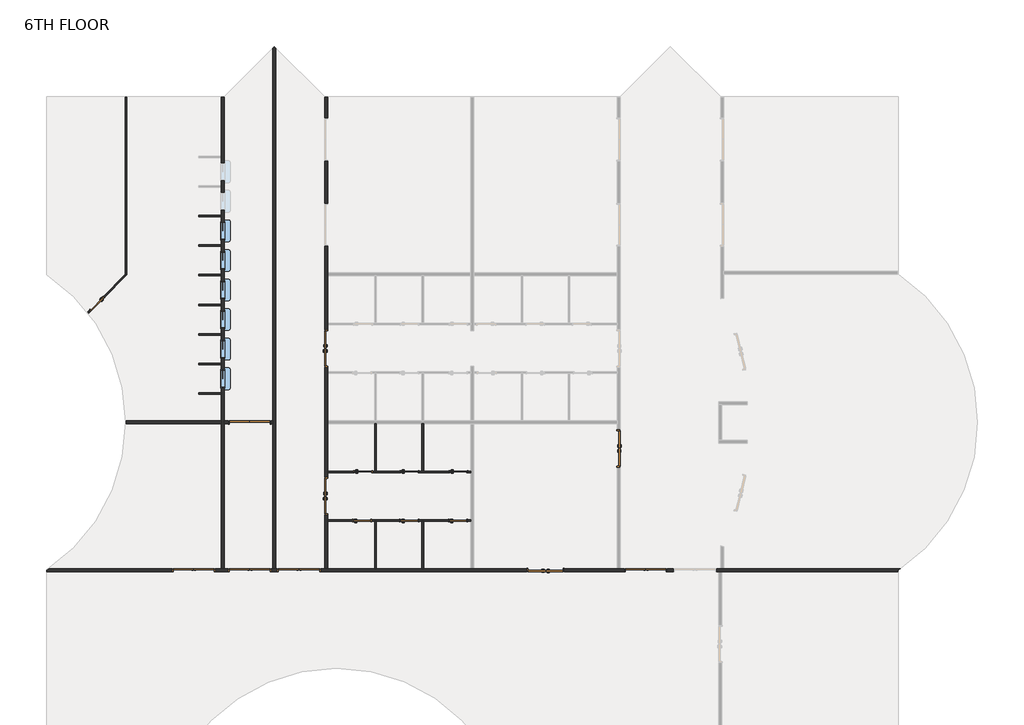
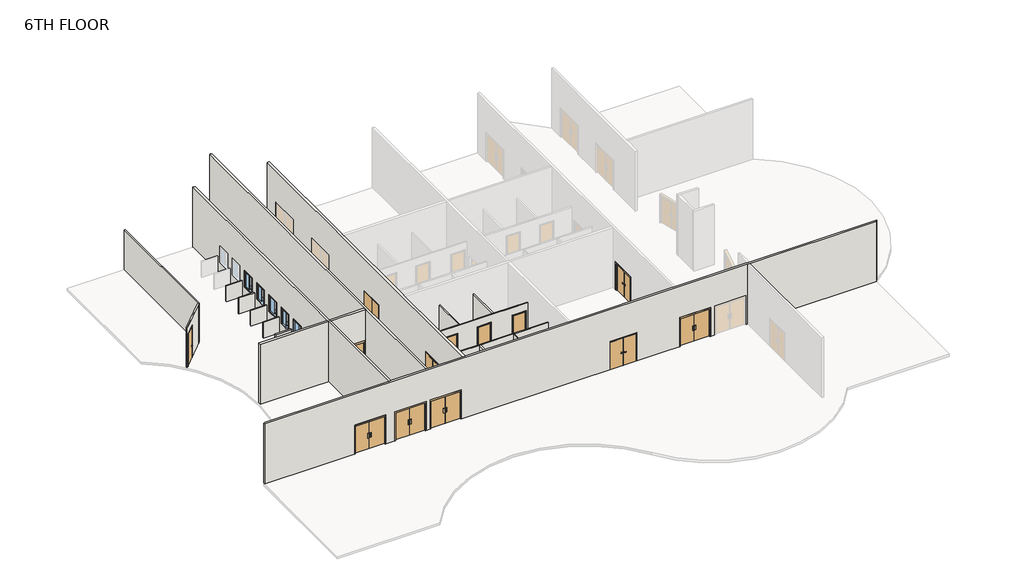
# One storey, part 1 of 2: 20 walls, 16 doors, 6 windows.
"""IFC4 building model written with IfcOpenShell, lengths in millimetres."""

from ifc_helpers import new_model, si_unit, point, frame, frame_2d, origin, place, context, project, spatial, polyline, circle_curve, trimmed, segment, composite_curve, outline, extrude, faceted_brep, transform, mapped, element, save
from ifc_brep_helpers import plane_surface, cylinder_surface, revolved_surface, advanced_brep
from components import door_2f250f70, door_0b13e4d9, door_b3a27a16, door_979b1b8c, door_f8b587be, pass_thru_4x3_19d81059

model = new_model("IFC4")

# Units and contexts
model_context = context("Model", 3, world=origin())
ifc_project = project(units=[si_unit("LENGTHUNIT", "METRE", prefix="MILLI")], contexts=[model_context])

# Site, building, storey
site = spatial("IfcSite", under=ifc_project)
building = spatial("IfcBuilding", under=site)
storey = spatial("IfcBuildingStorey", under=building, Name="6TH FLOOR", Elevation=27432.0)

# Doors
placement = place(None, origin())
door_shape = door_2f250f70(model_context)
element("IfcDoor", 1, ObjectType="Door-Passage-Double-Flush : 72\" x 82\"", at=placement, inside=storey, context=model_context, shape_type="MappedRepresentation", body=[
    mapped(door_shape, transform((14556.3400257, 13109.575, 27432.0), x_axis=(0.0, 1.0, 0.0), y_axis=(-1.0, 0.0, 0.0), z_axis=(0.0, 0.0, 1.0))),
])
element("IfcDoor", 2, ObjectType="Door-Passage-Double-Flush : 72\" x 82\"", at=placement, inside=storey, context=model_context, shape_type="MappedRepresentation", body=[
    mapped(door_shape, transform((14556.3400257, 20729.575, 27432.0), x_axis=(0.0, 1.0, 0.0), y_axis=(-1.0, 0.0, 0.0), z_axis=(0.0, 0.0, 1.0))),
])
element("IfcDoor", 3, ObjectType="Door-Passage-Double-Flush : 72\" x 82\"", at=placement, inside=storey, context=model_context, shape_type="MappedRepresentation", body=[
    mapped(door_shape, transform((25872.8337757, 9305.925, 27432.0), x_axis=(-1.0, 0.0, 0.0), y_axis=(0.0, -1.0, 0.0), z_axis=(0.0, 0.0, 1.0))),
])
element("IfcDoor", 4, ObjectType="Door-Passage-Double-Flush : 72\" x 82\"", at=placement, inside=storey, context=model_context, shape_type="MappedRepresentation", body=[
    mapped(door_shape, transform((29628.0650257, 15571.7875, 27432.0), x_axis=(0.0, -1.0, 0.0), y_axis=(1.0, 0.0, 0.0), z_axis=(0.0, 0.0, 1.0))),
])
door_2_shape = door_0b13e4d9(model_context)
element("IfcDoor", 5, ObjectType="Door-Passage-Double-Flush-Dbl_Acting : 84\" x 84\"", at=placement, inside=storey, context=model_context, shape_type="MappedRepresentation", body=[
    mapped(door_2_shape, transform((13151.4025257, 9293.225, 27432.0), x_axis=(-1.0, 0.0, 0.0), y_axis=(0.0, -1.0, 0.0), z_axis=(0.0, 0.0, 1.0))),
])
door_3_shape = door_b3a27a16(model_context)
element("IfcDoor", 6, ObjectType="Door-Passage-Double-Flush-Dbl_Acting : 84\" x 84\"", at=placement, inside=storey, context=model_context, shape_type="MappedRepresentation", body=[
    mapped(door_3_shape, transform((31033.0025257, 9293.225, 27432.0), x_axis=(1.0, 0.0, 0.0), y_axis=(0.0, 1.0, 0.0), z_axis=(0.0, 0.0, 1.0))),
])
element("IfcDoor", 7, ObjectType="Door-Passage-Double-Flush-Dbl_Acting : 84\" x 84\"", at=placement, inside=storey, context=model_context, shape_type="MappedRepresentation", body=[
    mapped(door_3_shape, transform((10620.375, 9293.225, 27432.0), x_axis=(1.0, 0.0, 0.0), y_axis=(0.0, 1.0, 0.0), z_axis=(0.0, 0.0, 1.0))),
])
element("IfcDoor", 8, ObjectType="Door-Passage-Double-Flush-Dbl_Acting : 84\" x 84\"", at=placement, inside=storey, context=model_context, shape_type="MappedRepresentation", body=[
    mapped(door_3_shape, transform((7730.5724743, 9293.225, 27432.0), x_axis=(1.0, 0.0, 0.0), y_axis=(0.0, 1.0, 0.0), z_axis=(0.0, 0.0, 1.0))),
])
element("IfcDoor", 9, ObjectType="Door-Passage-Double-Flush-Dbl_Acting : 84\" x 84\"", at=placement, inside=storey, context=model_context, shape_type="MappedRepresentation", body=[
    mapped(door_3_shape, transform((10620.375, 16913.225, 27432.0), x_axis=(1.0, 0.0, 0.0), y_axis=(0.0, 1.0, 0.0), z_axis=(0.0, 0.0, 1.0))),
])
door_4_shape = door_979b1b8c(model_context)
element("IfcDoor", 10, ObjectType="Door-Passage-Single-Flush : 36\" x 96\"", at=placement, inside=storey, context=model_context, shape_type="MappedRepresentation", body=[
    mapped(door_4_shape, transform((16456.5775257, 14357.35, 27432.0), x_axis=(1.0, 0.0, 0.0), y_axis=(0.0, 1.0, 0.0), z_axis=(0.0, 0.0, 1.0))),
])
element("IfcDoor", 11, ObjectType="Door-Passage-Single-Flush : 36\" x 96\"", at=placement, inside=storey, context=model_context, shape_type="MappedRepresentation", body=[
    mapped(door_4_shape, transform((18855.2900257, 14357.35, 27432.0), x_axis=(1.0, 0.0, 0.0), y_axis=(0.0, 1.0, 0.0), z_axis=(0.0, 0.0, 1.0))),
])
element("IfcDoor", 12, ObjectType="Door-Passage-Single-Flush : 36\" x 96\"", at=placement, inside=storey, context=model_context, shape_type="MappedRepresentation", body=[
    mapped(door_4_shape, transform((21373.0650257, 14357.35, 27432.0), x_axis=(1.0, 0.0, 0.0), y_axis=(0.0, 1.0, 0.0), z_axis=(0.0, 0.0, 1.0))),
])
element("IfcDoor", 13, ObjectType="Door-Passage-Single-Flush : 36\" x 96\"", at=placement, inside=storey, context=model_context, shape_type="MappedRepresentation", body=[
    mapped(door_4_shape, transform((2731.3607977, 23031.2061406, 27432.0), x_axis=(-0.7071067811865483, -0.7071067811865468, 0.0), y_axis=(0.7071067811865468, -0.7071067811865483, 0.0), z_axis=(0.0, 0.0, 1.0))),
])
door_5_shape = door_f8b587be(model_context)
element("IfcDoor", 14, ObjectType="Door-Passage-Single-Flush : 36\" x 96\"", at=placement, inside=storey, context=model_context, shape_type="MappedRepresentation", body=[
    mapped(door_5_shape, transform((16405.7775257, 11861.8, 27432.0), x_axis=(1.0, 0.0, 0.0), y_axis=(0.0, 1.0, 0.0), z_axis=(0.0, 0.0, 1.0))),
])
element("IfcDoor", 15, ObjectType="Door-Passage-Single-Flush : 36\" x 96\"", at=placement, inside=storey, context=model_context, shape_type="MappedRepresentation", body=[
    mapped(door_5_shape, transform((18836.2400257, 11861.8, 27432.0), x_axis=(1.0, 0.0, 0.0), y_axis=(0.0, 1.0, 0.0), z_axis=(0.0, 0.0, 1.0))),
])
element("IfcDoor", 16, ObjectType="Door-Passage-Single-Flush : 36\" x 96\"", at=placement, inside=storey, context=model_context, shape_type="MappedRepresentation", body=[
    mapped(door_5_shape, transform((21354.0150257, 11861.8, 27432.0), x_axis=(1.0, 0.0, 0.0), y_axis=(0.0, 1.0, 0.0), z_axis=(0.0, 0.0, 1.0))),
])

# Walls
element("IfcWall", 17, ObjectType="SYR_INT_ONE_HOUR", at=placement, inside=storey, context=model_context, shape_type="SweptSolid", body=[
    extrude(outline(polyline([(17066.1775257, 14403.3875), (17066.1775257, 16841.7875), (17145.5525257, 16841.7875), (17145.5525257, 14403.3875), (17066.1775257, 14403.3875)])), frame((0.0, 0.0, 27432.0), z_axis=(0.0, 0.0, 1.0), x_axis=(1.0, 0.0, 0.0)), (0.0, 0.0, 1.0), 3048.0),
])
element("IfcWall", 18, ObjectType="SYR_INT_ONE_HOUR", at=placement, inside=storey, context=model_context, shape_type="SweptSolid", body=[
    extrude(outline(polyline([(19576.0150257, 11815.7625), (19576.0150257, 9377.3625), (19496.6400257, 9377.3625), (19496.6400257, 11815.7625), (19576.0150257, 11815.7625)])), frame((0.0, 0.0, 27432.0), z_axis=(0.0, 0.0, 1.0), x_axis=(1.0, 0.0, 0.0)), (0.0, 0.0, 1.0), 3048.0),
])
element("IfcWall", 19, ObjectType="SYR_INT_ONE_HOUR", at=placement, inside=storey, context=model_context, shape_type="Brep", body=[
    faceted_brep([(14627.7775257, 14403.3875, 30480.0), (17066.1775257, 14403.3875, 30480.0), (17145.5525257, 14403.3875, 30480.0), (19496.6400257, 14403.3875, 30480.0), (19576.0150257, 14403.3875, 30480.0), (22014.4150257, 14403.3875, 30480.0), (22014.4150257, 14403.3875, 27432.0), (21862.0150257, 14403.3875, 27432.0), (21862.0150257, 14403.3875, 29902.15), (20884.1150257, 14403.3875, 29902.15), (20884.1150257, 14403.3875, 27432.0), (19576.0150257, 14403.3875, 27432.0), (19496.6400257, 14403.3875, 27432.0), (19344.2400257, 14403.3875, 27432.0), (19344.2400257, 14403.3875, 29902.15), (18366.3400257, 14403.3875, 29902.15), (18366.3400257, 14403.3875, 27432.0), (17145.5525257, 14403.3875, 27432.0), (17066.1775257, 14403.3875, 27432.0), (16945.5275257, 14403.3875, 27432.0), (16945.5275257, 14403.3875, 29902.15), (15967.6275257, 14403.3875, 29902.15), (15967.6275257, 14403.3875, 27432.0), (14627.7775257, 14403.3875, 27432.0), (22014.4150257, 14324.0125, 30480.0), (14627.7775257, 14324.0125, 30480.0), (14627.7775257, 14324.0125, 27432.0), (15967.6275257, 14324.0125, 27432.0), (15967.6275257, 14324.0125, 29902.15), (16945.5275257, 14324.0125, 29902.15), (16945.5275257, 14324.0125, 27432.0), (18366.3400257, 14324.0125, 27432.0), (18366.3400257, 14324.0125, 29902.15), (19344.2400257, 14324.0125, 29902.15), (19344.2400257, 14324.0125, 27432.0), (20884.1150257, 14324.0125, 27432.0), (20884.1150257, 14324.0125, 29902.15), (21862.0150257, 14324.0125, 29902.15), (21862.0150257, 14324.0125, 27432.0), (22014.4150257, 14324.0125, 27432.0)], [[[0, 1, 2, 3, 4, 5, 6, 7, 8, 9, 10, 11, 12, 13, 14, 15, 16, 17, 18, 19, 20, 21, 22, 23]], [[24, 25, 26, 27, 28, 29, 30, 31, 32, 33, 34, 35, 36, 37, 38, 39]], [[6, 39, 38, 7]], [[26, 23, 22, 27]], [[30, 19, 18, 17, 16, 31]], [[34, 13, 12, 11, 10, 35]], [[5, 4, 3, 2, 1, 0, 25, 24]], [[0, 23, 26, 25]], [[6, 5, 24, 39]], [[29, 20, 19, 30]], [[20, 29, 28, 21]], [[21, 28, 27, 22]], [[14, 13, 34, 33]], [[15, 14, 33, 32]], [[16, 15, 32, 31]], [[37, 8, 7, 38]], [[8, 37, 36, 9]], [[9, 36, 35, 10]]]),
])
element("IfcWall", 20, ObjectType="SYR_INT_ONE_HOUR", at=placement, inside=storey, context=model_context, shape_type="Brep", body=[
    faceted_brep([(14627.7775257, 11895.1375, 30480.0), (22014.4150257, 11895.1375, 30480.0), (22014.4150257, 11895.1375, 27432.0), (21842.9650257, 11895.1375, 27432.0), (21842.9650257, 11895.1375, 29902.15), (20865.0650257, 11895.1375, 29902.15), (20865.0650257, 11895.1375, 27432.0), (19325.1900257, 11895.1375, 27432.0), (19325.1900257, 11895.1375, 29902.15), (18347.2900257, 11895.1375, 29902.15), (18347.2900257, 11895.1375, 27432.0), (16894.7275257, 11895.1375, 27432.0), (16894.7275257, 11895.1375, 29902.15), (15916.8275257, 11895.1375, 29902.15), (15916.8275257, 11895.1375, 27432.0), (14627.7775257, 11895.1375, 27432.0), (22014.4150257, 11815.7625, 30480.0), (19576.0150257, 11815.7625, 30480.0), (19496.6400257, 11815.7625, 30480.0), (17145.5525257, 11815.7625, 30480.0), (17066.1775257, 11815.7625, 30480.0), (14627.7775257, 11815.7625, 30480.0), (14627.7775257, 11815.7625, 27432.0), (15916.8275257, 11815.7625, 27432.0), (15916.8275257, 11815.7625, 29902.15), (16894.7275257, 11815.7625, 29902.15), (16894.7275257, 11815.7625, 27432.0), (17066.1775257, 11815.7625, 27432.0), (17145.5525257, 11815.7625, 27432.0), (18347.2900257, 11815.7625, 27432.0), (18347.2900257, 11815.7625, 29902.15), (19325.1900257, 11815.7625, 29902.15), (19325.1900257, 11815.7625, 27432.0), (19496.6400257, 11815.7625, 27432.0), (19576.0150257, 11815.7625, 27432.0), (20865.0650257, 11815.7625, 27432.0), (20865.0650257, 11815.7625, 29902.15), (21842.9650257, 11815.7625, 29902.15), (21842.9650257, 11815.7625, 27432.0), (22014.4150257, 11815.7625, 27432.0)], [[[0, 1, 2, 3, 4, 5, 6, 7, 8, 9, 10, 11, 12, 13, 14, 15]], [[16, 17, 18, 19, 20, 21, 22, 23, 24, 25, 26, 27, 28, 29, 30, 31, 32, 33, 34, 35, 36, 37, 38, 39]], [[2, 39, 38, 3]], [[22, 15, 14, 23]], [[26, 11, 10, 29, 28, 27]], [[32, 7, 6, 35, 34, 33]], [[1, 0, 21, 20, 19, 18, 17, 16]], [[0, 15, 22, 21]], [[2, 1, 16, 39]], [[25, 12, 11, 26]], [[12, 25, 24, 13]], [[13, 24, 23, 14]], [[31, 8, 7, 32]], [[8, 31, 30, 9]], [[9, 30, 29, 10]], [[37, 4, 3, 38]], [[4, 37, 36, 5]], [[5, 36, 35, 6]]]),
])
element("IfcWall", 21, ObjectType="SYR_INT_ONE_HOUR", at=placement, inside=storey, context=model_context, shape_type="SweptSolid", body=[
    extrude(outline(polyline([(17066.1775257, 9377.3625), (17066.1775257, 11815.7625), (17145.5525257, 11815.7625), (17145.5525257, 9377.3625), (17066.1775257, 9377.3625)])), frame((0.0, 0.0, 27432.0), z_axis=(0.0, 0.0, 1.0), x_axis=(1.0, 0.0, 0.0)), (0.0, 0.0, 1.0), 3048.0),
])
element("IfcWall", 22, ObjectType="SYR_INT_ONE_HOUR", at=placement, inside=storey, context=model_context, shape_type="SweptSolid", body=[
    extrude(outline(polyline([(19576.0150257, 16841.7875), (19576.0150257, 14403.3875), (19496.6400257, 14403.3875), (19496.6400257, 16841.7875), (19576.0150257, 16841.7875)])), frame((0.0, 0.0, 27432.0), z_axis=(0.0, 0.0, 1.0), x_axis=(1.0, 0.0, 0.0)), (0.0, 0.0, 1.0), 3048.0),
])
element("IfcWall", 23, ObjectType="SYR_INT_ONE_HOUR", at=placement, inside=storey, context=model_context, shape_type="SweptSolid", body=[
    extrude(outline(polyline([(7979.2710938, 18443.575), (9144.0, 18443.575), (9144.0, 18364.2), (7979.2710938, 18364.2), (7979.2710938, 18443.575)])), frame((0.0, 0.0, 27432.0), z_axis=(0.0, 0.0, 1.0), x_axis=(1.0, 0.0, 0.0)), (0.0, 0.0, 1.0), 1219.2),
])
element("IfcWall", 24, ObjectType="SYR_INT_ONE_HOUR", at=placement, inside=storey, context=model_context, shape_type="SweptSolid", body=[
    extrude(outline(polyline([(7979.2710938, 19967.575), (9144.0, 19967.575), (9144.0, 19888.2), (7979.2710938, 19888.2), (7979.2710938, 19967.575)])), frame((0.0, 0.0, 27432.0), z_axis=(0.0, 0.0, 1.0), x_axis=(1.0, 0.0, 0.0)), (0.0, 0.0, 1.0), 1219.2),
])
element("IfcWall", 25, ObjectType="SYR_INT_ONE_HOUR", at=placement, inside=storey, context=model_context, shape_type="SweptSolid", body=[
    extrude(outline(polyline([(7979.2710938, 21491.575), (9144.0, 21491.575), (9144.0, 21412.2), (7979.2710938, 21412.2), (7979.2710938, 21491.575)])), frame((0.0, 0.0, 27432.0), z_axis=(0.0, 0.0, 1.0), x_axis=(1.0, 0.0, 0.0)), (0.0, 0.0, 1.0), 1219.2),
])
element("IfcWall", 26, ObjectType="SYR_INT_ONE_HOUR", at=placement, inside=storey, context=model_context, shape_type="SweptSolid", body=[
    extrude(outline(polyline([(7979.2710938, 23015.575), (9144.0, 23015.575), (9144.0, 22936.2), (7979.2710938, 22936.2), (7979.2710938, 23015.575)])), frame((0.0, 0.0, 27432.0), z_axis=(0.0, 0.0, 1.0), x_axis=(1.0, 0.0, 0.0)), (0.0, 0.0, 1.0), 1219.2),
])
element("IfcWall", 27, ObjectType="SYR_INT_ONE_HOUR", at=placement, inside=storey, context=model_context, shape_type="SweptSolid", body=[
    extrude(outline(polyline([(7979.2710938, 24539.575), (9144.0, 24539.575), (9144.0, 24460.2), (7979.2710938, 24460.2), (7979.2710938, 24539.575)])), frame((0.0, 0.0, 27432.0), z_axis=(0.0, 0.0, 1.0), x_axis=(1.0, 0.0, 0.0)), (0.0, 0.0, 1.0), 1219.2),
])
element("IfcWall", 28, ObjectType="SYR_INT_ONE_HOUR", at=placement, inside=storey, context=model_context, shape_type="SweptSolid", body=[
    extrude(outline(polyline([(7979.2710938, 26063.575), (9144.0, 26063.575), (9144.0, 25984.2), (7979.2710938, 25984.2), (7979.2710938, 26063.575)])), frame((0.0, 0.0, 27432.0), z_axis=(0.0, 0.0, 1.0), x_axis=(1.0, 0.0, 0.0)), (0.0, 0.0, 1.0), 1219.2),
])
element("IfcWall", 29, ObjectType="SYR_INT_ONE_HOUR", at=placement, inside=storey, context=model_context, shape_type="SweptSolid", body=[
    extrude(outline(polyline([(7979.2710938, 27587.575), (9144.0, 27587.575), (9144.0, 27508.2), (7979.2710938, 27508.2), (7979.2710938, 27587.575)])), frame((0.0, 0.0, 27432.0), z_axis=(0.0, 0.0, 1.0), x_axis=(1.0, 0.0, 0.0)), (0.0, 0.0, 1.0), 1219.2),
])
element("IfcWall", 30, ObjectType="SYR_INT_ONE_HOUR", at=placement, inside=storey, context=model_context, shape_type="Brep", body=[
    faceted_brep([(4209.0224132, 33683.575, 27432.0), (4209.0224132, 24556.0141008, 27432.0), (4209.0224132, 24443.7608992, 27432.0), (4209.0224132, 24443.7608992, 30480.0), (4209.0224132, 24556.0141008, 30480.0), (4209.0224132, 33683.575, 30480.0), (4288.3974132, 33683.575, 27432.0), (4288.3974132, 33683.575, 30480.0), (4288.3974132, 24523.1358992, 30480.0), (4288.3974132, 24523.1358992, 27432.0)], [[[0, 1, 2, 3, 4, 5]], [[6, 7, 8, 9]], [[2, 1, 0, 6, 9]], [[5, 4, 3, 8, 7]], [[3, 2, 9, 8]], [[0, 5, 7, 6]]]),
])
element("IfcWall", 31, ObjectType="SYR_INT_ONE_HOUR", at=placement, inside=storey, context=model_context, shape_type="AdvancedBrep", body=[
    advanced_brep(
    [(2260.5955581, 22607.5872456, 30480.0), (4209.0224132, 24556.0141008, 30480.0), (4209.0224132, 24556.0141008, 27432.0), (3053.527486, 23400.5191735, 27432.0), (3053.527486, 23400.5191735, 29902.15), (2362.0477647, 22709.0394522, 29902.15), (2362.0477647, 22709.0394522, 27432.0), (2260.5955581, 22607.5872456, 27432.0), (4209.0224132, 24443.7608992, 30480.0), (2310.04482, 22544.783306, 30480.0), (2310.04482, 22544.783306, 27432.0), (2418.1743655, 22652.9128515, 27432.0), (2418.1743655, 22652.9128515, 29902.15), (3109.6540868, 23344.3925728, 29902.15), (3109.6540868, 23344.3925728, 27432.0), (4209.0224132, 24443.7608992, 27432.0)],
    [
        (0, 1),
        (1, 2),
        (2, 3),
        (3, 4),
        (4, 5),
        (5, 6),
        (6, 7),
        (7, 0),
        (8, 9),
        (9, 10),
        (10, 11),
        (11, 12),
        (12, 13),
        (13, 14),
        (14, 15),
        (15, 8),
        (2, 15),
        (14, 3),
        (10, 7, circle_curve(frame((-4898.9611805, 16919.575, 27432.0), z_axis=(0.0, 0.0, 1.0), x_axis=(1.0, 0.0, 0.0)), 9144.0)),
        (6, 11),
        (0, 9, circle_curve(frame((-4898.9611805, 16919.575, 30480.0), z_axis=(0.0, 0.0, -1.0), x_axis=(1.0, 0.0, 0.0)), 9144.0)),
        (8, 1),
        (5, 12),
        (4, 13),
    ],
    [
        plane_surface(frame((4220.6466129, 24567.6383004, 27432.0), z_axis=(-0.7071067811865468, 0.7071067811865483, 0.0), x_axis=(-0.7071067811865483, -0.7071067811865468, 0.0))),
        plane_surface(frame((4276.7732136, 24511.5116996, 27432.0), z_axis=(0.7071067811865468, -0.7071067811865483, 0.0), x_axis=(0.7071067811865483, 0.7071067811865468, 0.0))),
        plane_surface(frame((4220.6466129, 24567.6383004, 27432.0), z_axis=(0.0, 0.0, -1.0), x_axis=(0.7071067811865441, -0.7071067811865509, 0.0))),
        plane_surface(frame((2146.5216178, 22493.5133053, 30480.0), z_axis=(0.0, 0.0, 1.0000000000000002), x_axis=(0.7071067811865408, -0.7071067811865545, 0.0))),
        plane_surface(frame((4209.0224132, 33778.5769531, 27432.0), z_axis=(1.0, 0.0, 0.0), x_axis=(0.0, -1.0, 0.0))),
        plane_surface(frame((1284.4170302, 23786.6701867, 27432.0), z_axis=(0.7071067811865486, 0.7071067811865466, 0.0), x_axis=(0.7071067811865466, -0.7071067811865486, 0.0))),
        plane_surface(frame((1284.4170302, 23786.6701867, 29902.15), z_axis=(0.0, 0.0, -1.0), x_axis=(0.7071067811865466, -0.7071067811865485, 0.0))),
        plane_surface(frame((1975.8967515, 24478.1499081, 29902.15), z_axis=(-0.7071067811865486, -0.7071067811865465, 0.0), x_axis=(0.7071067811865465, -0.7071067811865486, 0.0))),
        revolved_surface(polyline([(4245.0388195, 16919.575, 30480.0), (4245.0388195, 16919.575, 27432.0)]), (-4898.9611805, 16919.575, 0.0), (0.0, 0.0, 1.0)),
    ],
    [
        (0, [[1, 2, 3, 4, 5, 6, 7, 8]]),
        (1, [[9, 10, 11, 12, 13, 14, 15, 16]]),
        (2, [[17, -15, 18, -3]]),
        (2, [[19, -7, 20, -11]]),
        (3, [[-1, 21, -9, 22]]),
        (4, [[-2, -22, -16, -17]]),
        (5, [[23, -12, -20, -6]]),
        (6, [[-23, -5, 24, -13]]),
        (7, [[-24, -4, -18, -14]]),
        (8, [[-8, -19, -10, -21]]),
    ],
),
])
element("IfcWall", 32, ObjectType="SYR_INT_TWO_HOUR", at=placement, inside=storey, context=model_context, shape_type="AdvancedBrep", body=[
    advanced_brep(
    [(270.9292057, 9377.3625, 32004.0), (9144.0, 9377.3625, 32004.0), (9299.575, 9377.3625, 32004.0), (11808.1012629, 9377.3625, 32004.0), (11963.6762629, 9377.3625, 32004.0), (14472.2025257, 9377.3625, 32004.0), (14627.7775257, 9377.3625, 32004.0), (22014.4150257, 9377.3625, 32004.0), (22169.9900257, 9377.3625, 32004.0), (29556.6275257, 9377.3625, 32004.0), (29712.2025257, 9377.3625, 32004.0), (34884.8300515, 9377.3625, 32004.0), (35040.4050515, 9377.3625, 32004.0), (44144.1842571, 9377.3625, 32004.0), (44144.1842571, 9377.3625, 27432.0), (35040.4050515, 9377.3625, 27432.0), (34884.8300515, 9377.3625, 27432.0), (34681.6300515, 9377.3625, 27432.0), (34681.6300515, 9377.3625, 29667.2), (32446.4300515, 9377.3625, 29667.2), (32446.4300515, 9377.3625, 27432.0), (32150.6025257, 9377.3625, 27432.0), (32150.6025257, 9377.3625, 29667.2), (29915.4025257, 9377.3625, 29667.2), (29915.4025257, 9377.3625, 27432.0), (29712.2025257, 9377.3625, 27432.0), (29556.6275257, 9377.3625, 27432.0), (26838.0337757, 9377.3625, 27432.0), (26838.0337757, 9377.3625, 29616.4), (24907.6337757, 9377.3625, 29616.4), (24907.6337757, 9377.3625, 27432.0), (22169.9900257, 9377.3625, 27432.0), (22014.4150257, 9377.3625, 27432.0), (19576.0150257, 9377.3625, 27432.0), (19496.6400257, 9377.3625, 27432.0), (17145.5525257, 9377.3625, 27432.0), (17066.1775257, 9377.3625, 27432.0), (14627.7775257, 9377.3625, 27432.0), (14472.2025257, 9377.3625, 27432.0), (14269.0025257, 9377.3625, 27432.0), (14269.0025257, 9377.3625, 29667.2), (12033.8025257, 9377.3625, 29667.2), (12033.8025257, 9377.3625, 27432.0), (11963.6762629, 9377.3625, 27432.0), (11808.1012629, 9377.3625, 27432.0), (11737.975, 9377.3625, 27432.0), (11737.975, 9377.3625, 29667.2), (9502.775, 9377.3625, 29667.2), (9502.775, 9377.3625, 27432.0), (9299.575, 9377.3625, 27432.0), (9144.0, 9377.3625, 27432.0), (8848.1724743, 9377.3625, 27432.0), (8848.1724743, 9377.3625, 29667.2), (6612.9724743, 9377.3625, 29667.2), (6612.9724743, 9377.3625, 27432.0), (270.9292057, 9377.3625, 27432.0), (155.575, 9221.7875, 32004.0), (155.575, 9221.7875, 27432.0), (6612.9724743, 9221.7875, 27432.0), (6612.9724743, 9221.7875, 29667.2), (8848.1724743, 9221.7875, 29667.2), (8848.1724743, 9221.7875, 27432.0), (9502.775, 9221.7875, 27432.0), (9502.775, 9221.7875, 29667.2), (11737.975, 9221.7875, 29667.2), (11737.975, 9221.7875, 27432.0), (12033.8025257, 9221.7875, 27432.0), (12033.8025257, 9221.7875, 29667.2), (14269.0025257, 9221.7875, 29667.2), (14269.0025257, 9221.7875, 27432.0), (24907.6337757, 9221.7875, 27432.0), (24907.6337757, 9221.7875, 29616.4), (26838.0337757, 9221.7875, 29616.4), (26838.0337757, 9221.7875, 27432.0), (29915.4025257, 9221.7875, 27432.0), (29915.4025257, 9221.7875, 29667.2), (32150.6025257, 9221.7875, 29667.2), (32150.6025257, 9221.7875, 27432.0), (32446.4300515, 9221.7875, 27432.0), (32446.4300515, 9221.7875, 29667.2), (34681.6300515, 9221.7875, 29667.2), (34681.6300515, 9221.7875, 27432.0), (34803.3714577, 9221.7875, 27432.0), (34958.9464577, 9221.7875, 27432.0), (44028.8300515, 9221.7875, 27432.0), (44028.8300515, 9221.7875, 32004.0), (34958.9464577, 9221.7875, 32004.0), (34803.3714577, 9221.7875, 32004.0), (44028.8300515, 9299.575, 27432.0), (155.575, 9299.575, 27432.0), (155.575, 9299.575, 32004.0), (44028.8300515, 9299.575, 32004.0)],
    [
        (0, 1),
        (1, 2),
        (2, 3),
        (3, 4),
        (4, 5),
        (5, 6),
        (6, 7),
        (7, 8),
        (8, 9),
        (9, 10),
        (10, 11),
        (11, 12),
        (12, 13),
        (13, 14),
        (14, 15),
        (15, 16),
        (16, 17),
        (17, 18),
        (18, 19),
        (19, 20),
        (20, 21),
        (21, 22),
        (22, 23),
        (23, 24),
        (24, 25),
        (25, 26),
        (26, 27),
        (27, 28),
        (28, 29),
        (29, 30),
        (30, 31),
        (31, 32),
        (32, 33),
        (33, 34),
        (34, 35),
        (35, 36),
        (36, 37),
        (37, 38),
        (38, 39),
        (39, 40),
        (40, 41),
        (41, 42),
        (42, 43),
        (43, 44),
        (44, 45),
        (45, 46),
        (46, 47),
        (47, 48),
        (48, 49),
        (49, 50),
        (50, 51),
        (51, 52),
        (52, 53),
        (53, 54),
        (54, 55),
        (55, 0),
        (56, 57),
        (57, 58),
        (58, 59),
        (59, 60),
        (60, 61),
        (61, 62),
        (62, 63),
        (63, 64),
        (64, 65),
        (65, 66),
        (66, 67),
        (67, 68),
        (68, 69),
        (69, 70),
        (70, 71),
        (71, 72),
        (72, 73),
        (73, 74),
        (74, 75),
        (75, 76),
        (76, 77),
        (77, 78),
        (78, 79),
        (79, 80),
        (80, 81),
        (81, 82),
        (82, 83),
        (83, 84),
        (84, 85),
        (85, 86),
        (86, 87),
        (87, 56),
        (20, 78),
        (77, 21),
        (81, 17),
        (14, 88, circle_curve(frame((38974.293871, 16919.575, 27432.0), z_axis=(0.0, 0.0, -1.0), x_axis=(0.8333333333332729, 0.5527707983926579, 0.0)), 9144.0)),
        (88, 84),
        (24, 74),
        (73, 27),
        (42, 66),
        (65, 45),
        (69, 39),
        (30, 70),
        (48, 62),
        (61, 51),
        (54, 58),
        (57, 89),
        (89, 55, circle_curve(frame((-4898.9611805, 16919.575, 27432.0), z_axis=(0.0, 0.0, 1.0), x_axis=(0.8333333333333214, 0.5527707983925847, 0.0)), 9144.0)),
        (0, 90, circle_curve(frame((-4898.9611805, 16919.575, 32004.0), z_axis=(0.0, 0.0, -1.0), x_axis=(0.8333333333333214, 0.5527707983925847, 0.0)), 9144.0)),
        (90, 56),
        (85, 91),
        (91, 13, circle_curve(frame((38974.293871, 16919.575, 32004.0), z_axis=(0.0, 0.0, 1.0), x_axis=(0.8333333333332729, 0.5527707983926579, 0.0)), 9144.0)),
        (19, 79),
        (18, 80),
        (76, 22),
        (75, 23),
        (41, 67),
        (40, 68),
        (64, 46),
        (63, 47),
        (60, 52),
        (59, 53),
        (29, 71),
        (28, 72),
        (89, 90),
        (91, 88),
    ],
    [
        plane_surface(frame((44028.8300515, 9377.3625, 27432.0), z_axis=(0.0, 1.0, 0.0), x_axis=(-1.0, 0.0, 0.0))),
        plane_surface(frame((44028.8300515, 9221.7875, 27432.0), z_axis=(0.0, -1.0, 0.0), x_axis=(1.0, 0.0, 0.0))),
        plane_surface(frame((44305.118871, 9377.3625, 27432.0), z_axis=(0.0, 0.0, -1.0), x_axis=(0.0, -1.0, 0.0))),
        plane_surface(frame((0.0, 9377.3625, 32004.0), z_axis=(0.0, 0.0, 1.0), x_axis=(0.0, -1.0, 0.0))),
        plane_surface(frame((32446.4300515, 10745.7875, 27432.0), z_axis=(1.0, 0.0, 0.0), x_axis=(0.0, -1.0, 0.0))),
        plane_surface(frame((32446.4300515, 10745.7875, 29667.2), z_axis=(0.0, 0.0, -1.0), x_axis=(0.0, -1.0, 0.0))),
        plane_surface(frame((34681.6300515, 10745.7875, 29667.2), z_axis=(-1.0, 0.0, 0.0), x_axis=(0.0, -1.0, 0.0))),
        plane_surface(frame((32150.6025257, 7697.7875, 27432.0), z_axis=(-1.0, 0.0, 0.0), x_axis=(0.0, 1.0, 0.0))),
        plane_surface(frame((32150.6025257, 7697.7875, 29667.2), z_axis=(0.0, 0.0, -1.0), x_axis=(0.0, 1.0, 0.0))),
        plane_surface(frame((29915.4025257, 7697.7875, 29667.2), z_axis=(1.0, 0.0, 0.0), x_axis=(0.0, 1.0, 0.0))),
        plane_surface(frame((12033.8025257, 10745.7875, 27432.0), z_axis=(1.0, 0.0, 0.0), x_axis=(0.0, -1.0, 0.0))),
        plane_surface(frame((12033.8025257, 10745.7875, 29667.2), z_axis=(0.0, 0.0, -1.0), x_axis=(0.0, -1.0, 0.0))),
        plane_surface(frame((14269.0025257, 10745.7875, 29667.2), z_axis=(-1.0, 0.0, 0.0), x_axis=(0.0, -1.0, 0.0))),
        plane_surface(frame((11737.975, 7697.7875, 27432.0), z_axis=(-1.0, 0.0, 0.0), x_axis=(0.0, 1.0, 0.0))),
        plane_surface(frame((11737.975, 7697.7875, 29667.2), z_axis=(0.0, 0.0, -1.0), x_axis=(0.0, 1.0, 0.0))),
        plane_surface(frame((9502.775, 7697.7875, 29667.2), z_axis=(1.0, 0.0, 0.0), x_axis=(0.0, 1.0, 0.0))),
        plane_surface(frame((8848.1724743, 7697.7875, 27432.0), z_axis=(-1.0, 0.0, 0.0), x_axis=(0.0, 1.0, 0.0))),
        plane_surface(frame((8848.1724743, 7697.7875, 29667.2), z_axis=(0.0, 0.0, -1.0), x_axis=(0.0, 1.0, 0.0))),
        plane_surface(frame((6612.9724743, 7697.7875, 29667.2), z_axis=(1.0, 0.0, 0.0), x_axis=(0.0, 1.0, 0.0))),
        plane_surface(frame((24907.6337757, 10901.3625, 27432.0), z_axis=(1.0, 0.0, 0.0), x_axis=(0.0, -1.0, 0.0))),
        plane_surface(frame((24907.6337757, 10901.3625, 29616.4), z_axis=(0.0, 0.0, -1.0), x_axis=(0.0, -1.0, 0.0))),
        plane_surface(frame((26838.0337757, 10901.3625, 29616.4), z_axis=(-1.0, 0.0, 0.0), x_axis=(0.0, -1.0, 0.0))),
        revolved_surface(polyline([(2721.0388194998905, 21974.111180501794, 32004.0), (2721.0388194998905, 21974.111180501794, 27432.0)]), (-4898.9611805, 16919.575, 27203.4), (0.0, 0.0, 1.0)),
        plane_surface(frame((155.575, -12852.9844355, 27203.4), z_axis=(-1.0, 0.0, 0.0), x_axis=(0.0, -1.0, 0.0))),
        cylinder_surface(frame((38974.293871, 16919.575, 27203.4), z_axis=(0.0, 0.0, 1.0), x_axis=(0.8333333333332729, 0.5527707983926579, 0.0)), 9144.0),
        plane_surface(frame((44028.8300515, -12852.9844355, 27203.4), z_axis=(1.0, 0.0, 0.0), x_axis=(0.0, 1.0, 0.0))),
    ],
    [
        (0, [[1, 2, 3, 4, 5, 6, 7, 8, 9, 10, 11, 12, 13, 14, 15, 16, 17, 18, 19, 20, 21, 22, 23, 24, 25, 26, 27, 28, 29, 30, 31, 32, 33, 34, 35, 36, 37, 38, 39, 40, 41, 42, 43, 44, 45, 46, 47, 48, 49, 50, 51, 52, 53, 54, 55, 56]]),
        (1, [[57, 58, 59, 60, 61, 62, 63, 64, 65, 66, 67, 68, 69, 70, 71, 72, 73, 74, 75, 76, 77, 78, 79, 80, 81, 82, 83, 84, 85, 86, 87, 88]]),
        (2, [[89, -78, 90, -21]]),
        (2, [[91, -17, -16, -15, 92, 93, -84, -83, -82]]),
        (2, [[94, -74, 95, -27, -26, -25]]),
        (2, [[96, -66, 97, -45, -44, -43]]),
        (2, [[98, -39, -38, -37, -36, -35, -34, -33, -32, -31, 99, -70]]),
        (2, [[100, -62, 101, -51, -50, -49]]),
        (2, [[-55, 102, -58, 103, 104]]),
        (3, [[-13, -12, -11, -10, -9, -8, -7, -6, -5, -4, -3, -2, -1, 105, 106, -88, -87, -86, 107, 108]]),
        (4, [[109, -79, -89, -20]]),
        (5, [[-109, -19, 110, -80]]),
        (6, [[-110, -18, -91, -81]]),
        (7, [[111, -22, -90, -77]]),
        (8, [[-111, -76, 112, -23]]),
        (9, [[-112, -75, -94, -24]]),
        (10, [[113, -67, -96, -42]]),
        (11, [[-113, -41, 114, -68]]),
        (12, [[-114, -40, -98, -69]]),
        (13, [[115, -46, -97, -65]]),
        (14, [[-115, -64, 116, -47]]),
        (15, [[-116, -63, -100, -48]]),
        (16, [[117, -52, -101, -61]]),
        (17, [[-117, -60, 118, -53]]),
        (18, [[-118, -59, -102, -54]]),
        (19, [[119, -71, -99, -30]]),
        (20, [[-119, -29, 120, -72]]),
        (21, [[-120, -28, -95, -73]]),
        (22, [[-56, -104, 121, -105]]),
        (23, [[-57, -106, -121, -103]]),
        (24, [[-14, -108, 122, -92]]),
        (25, [[-85, -93, -122, -107]]),
    ],
),
])
element("IfcWall", 33, ObjectType="SYR_INT_TWO_HOUR", at=placement, inside=storey, context=model_context, shape_type="Brep", body=[
    faceted_brep([(9144.0, 33683.575, 27432.0), (9144.0, 30635.575, 27432.0), (9144.0, 30556.2, 27432.0), (9144.0, 29111.575, 27432.0), (9144.0, 29032.2, 27432.0), (9144.0, 27587.575, 27432.0), (9144.0, 27508.2, 27432.0), (9144.0, 26063.575, 27432.0), (9144.0, 25984.2, 27432.0), (9144.0, 24539.575, 27432.0), (9144.0, 24460.2, 27432.0), (9144.0, 23015.575, 27432.0), (9144.0, 22936.2, 27432.0), (9144.0, 21491.575, 27432.0), (9144.0, 21412.2, 27432.0), (9144.0, 19967.575, 27432.0), (9144.0, 19888.2, 27432.0), (9144.0, 18443.575, 27432.0), (9144.0, 18364.2, 27432.0), (9144.0, 16997.3625, 27432.0), (9144.0, 16841.7875, 27432.0), (9144.0, 9377.3625, 27432.0), (9144.0, 9377.3625, 32004.0), (9144.0, 16841.7875, 32004.0), (9144.0, 16997.3625, 32004.0), (9144.0, 33683.575, 32004.0), (9144.0, 19623.0875, 29565.6), (9144.0, 18708.6875, 29565.6), (9144.0, 18708.6875, 28346.4), (9144.0, 19623.0875, 28346.4), (9144.0, 21147.0875, 29565.6), (9144.0, 20232.6875, 29565.6), (9144.0, 20232.6875, 28346.4), (9144.0, 21147.0875, 28346.4), (9144.0, 22671.0875, 29565.6), (9144.0, 21756.6875, 29565.6), (9144.0, 21756.6875, 28346.4), (9144.0, 22671.0875, 28346.4), (9144.0, 24195.0875, 29565.6), (9144.0, 23280.6875, 29565.6), (9144.0, 23280.6875, 28346.4), (9144.0, 24195.0875, 28346.4), (9144.0, 25719.0875, 29565.6), (9144.0, 24804.6875, 29565.6), (9144.0, 24804.6875, 28346.4), (9144.0, 25719.0875, 28346.4), (9144.0, 27243.0875, 29565.6), (9144.0, 26328.6875, 29565.6), (9144.0, 26328.6875, 28346.4), (9144.0, 27243.0875, 28346.4), (9144.0, 28767.0875, 29565.6), (9144.0, 27852.6875, 29565.6), (9144.0, 27852.6875, 28346.4), (9144.0, 28767.0875, 28346.4), (9144.0, 30291.0875, 29565.6), (9144.0, 29376.6875, 29565.6), (9144.0, 29376.6875, 28346.4), (9144.0, 30291.0875, 28346.4), (9299.575, 33683.575, 27432.0), (9299.575, 33683.575, 32004.0), (9299.575, 16997.3625, 32004.0), (9299.575, 16841.7875, 32004.0), (9299.575, 9377.3625, 32004.0), (9299.575, 9377.3625, 27432.0), (9299.575, 16841.7875, 27432.0), (9299.575, 16997.3625, 27432.0), (9299.575, 19623.0875, 29565.6), (9299.575, 19623.0875, 28346.4), (9299.575, 18708.6875, 28346.4), (9299.575, 18708.6875, 29565.6), (9299.575, 21147.0875, 29565.6), (9299.575, 21147.0875, 28346.4), (9299.575, 20232.6875, 28346.4), (9299.575, 20232.6875, 29565.6), (9299.575, 22671.0875, 29565.6), (9299.575, 22671.0875, 28346.4), (9299.575, 21756.6875, 28346.4), (9299.575, 21756.6875, 29565.6), (9299.575, 24195.0875, 29565.6), (9299.575, 24195.0875, 28346.4), (9299.575, 23280.6875, 28346.4), (9299.575, 23280.6875, 29565.6), (9299.575, 25719.0875, 29565.6), (9299.575, 25719.0875, 28346.4), (9299.575, 24804.6875, 28346.4), (9299.575, 24804.6875, 29565.6), (9299.575, 27243.0875, 29565.6), (9299.575, 27243.0875, 28346.4), (9299.575, 26328.6875, 28346.4), (9299.575, 26328.6875, 29565.6), (9299.575, 28767.0875, 29565.6), (9299.575, 28767.0875, 28346.4), (9299.575, 27852.6875, 28346.4), (9299.575, 27852.6875, 29565.6), (9299.575, 30291.0875, 29565.6), (9299.575, 30291.0875, 28346.4), (9299.575, 29376.6875, 28346.4), (9299.575, 29376.6875, 29565.6)], [[[0, 1, 2, 3, 4, 5, 6, 7, 8, 9, 10, 11, 12, 13, 14, 15, 16, 17, 18, 19, 20, 21, 22, 23, 24, 25], [26, 27, 28, 29], [30, 31, 32, 33], [34, 35, 36, 37], [38, 39, 40, 41], [42, 43, 44, 45], [46, 47, 48, 49], [50, 51, 52, 53], [54, 55, 56, 57]], [[58, 59, 60, 61, 62, 63, 64, 65], [66, 67, 68, 69], [70, 71, 72, 73], [74, 75, 76, 77], [78, 79, 80, 81], [82, 83, 84, 85], [86, 87, 88, 89], [90, 91, 92, 93], [94, 95, 96, 97]], [[21, 20, 19, 18, 17, 16, 15, 14, 13, 12, 11, 10, 9, 8, 7, 6, 5, 4, 3, 2, 1, 0, 58, 65, 64, 63]], [[25, 24, 23, 22, 62, 61, 60, 59]], [[22, 21, 63, 62]], [[67, 66, 26, 29]], [[68, 67, 29, 28]], [[69, 68, 28, 27]], [[66, 69, 27, 26]], [[71, 70, 30, 33]], [[72, 71, 33, 32]], [[73, 72, 32, 31]], [[70, 73, 31, 30]], [[75, 74, 34, 37]], [[76, 75, 37, 36]], [[77, 76, 36, 35]], [[74, 77, 35, 34]], [[79, 78, 38, 41]], [[80, 79, 41, 40]], [[81, 80, 40, 39]], [[78, 81, 39, 38]], [[83, 82, 42, 45]], [[84, 83, 45, 44]], [[85, 84, 44, 43]], [[82, 85, 43, 42]], [[87, 86, 46, 49]], [[88, 87, 49, 48]], [[89, 88, 48, 47]], [[86, 89, 47, 46]], [[91, 90, 50, 53]], [[92, 91, 53, 52]], [[93, 92, 52, 51]], [[90, 93, 51, 50]], [[95, 94, 54, 57]], [[96, 95, 57, 56]], [[97, 96, 56, 55]], [[94, 97, 55, 54]], [[0, 25, 59, 58]]]),
])
element("IfcWall", 34, ObjectType="SYR_INT_TWO_HOUR", at=placement, inside=storey, context=model_context, shape_type="Brep", body=[
    faceted_brep([(14472.2025257, 9377.3625, 32004.0), (14472.2025257, 33683.575, 32004.0), (14472.2025257, 33683.575, 27432.0), (14472.2025257, 32616.775, 27432.0), (14472.2025257, 32616.775, 29667.2), (14472.2025257, 30381.575, 29667.2), (14472.2025257, 30381.575, 27432.0), (14472.2025257, 28219.4, 27432.0), (14472.2025257, 28219.4, 29667.2), (14472.2025257, 25984.2, 29667.2), (14472.2025257, 25984.2, 27432.0), (14472.2025257, 21694.775, 27432.0), (14472.2025257, 21694.775, 29616.4), (14472.2025257, 19764.375, 29616.4), (14472.2025257, 19764.375, 27432.0), (14472.2025257, 14074.775, 27432.0), (14472.2025257, 14074.775, 29616.4), (14472.2025257, 12144.375, 29616.4), (14472.2025257, 12144.375, 27432.0), (14472.2025257, 9377.3625, 27432.0), (14627.7775257, 33683.575, 32004.0), (14627.7775257, 24617.3625, 32004.0), (14627.7775257, 24461.7875, 32004.0), (14627.7775257, 16997.3625, 32004.0), (14627.7775257, 16841.7875, 32004.0), (14627.7775257, 9377.3625, 32004.0), (14627.7775257, 9377.3625, 27432.0), (14627.7775257, 11815.7625, 27432.0), (14627.7775257, 11895.1375, 27432.0), (14627.7775257, 12144.375, 27432.0), (14627.7775257, 12144.375, 29616.4), (14627.7775257, 14074.775, 29616.4), (14627.7775257, 14074.775, 27432.0), (14627.7775257, 14324.0125, 27432.0), (14627.7775257, 14403.3875, 27432.0), (14627.7775257, 16841.7875, 27432.0), (14627.7775257, 16997.3625, 27432.0), (14627.7775257, 19435.7625, 27432.0), (14627.7775257, 19515.1375, 27432.0), (14627.7775257, 19764.375, 27432.0), (14627.7775257, 19764.375, 29616.4), (14627.7775257, 21694.775, 29616.4), (14627.7775257, 21694.775, 27432.0), (14627.7775257, 21944.0125, 27432.0), (14627.7775257, 22023.3875, 27432.0), (14627.7775257, 24461.7875, 27432.0), (14627.7775257, 24617.3625, 27432.0), (14627.7775257, 25984.2, 27432.0), (14627.7775257, 25984.2, 29667.2), (14627.7775257, 28219.4, 29667.2), (14627.7775257, 28219.4, 27432.0), (14627.7775257, 30381.575, 27432.0), (14627.7775257, 30381.575, 29667.2), (14627.7775257, 32616.775, 29667.2), (14627.7775257, 32616.775, 27432.0), (14627.7775257, 33683.575, 27432.0)], [[[0, 1, 2, 3, 4, 5, 6, 7, 8, 9, 10, 11, 12, 13, 14, 15, 16, 17, 18, 19]], [[20, 21, 22, 23, 24, 25, 26, 27, 28, 29, 30, 31, 32, 33, 34, 35, 36, 37, 38, 39, 40, 41, 42, 43, 44, 45, 46, 47, 48, 49, 50, 51, 52, 53, 54, 55]], [[26, 19, 18, 29, 28, 27]], [[32, 15, 14, 39, 38, 37, 36, 35, 34, 33]], [[42, 11, 10, 47, 46, 45, 44, 43]], [[3, 2, 55, 54]], [[6, 51, 50, 7]], [[1, 0, 25, 24, 23, 22, 21, 20]], [[0, 19, 26, 25]], [[31, 16, 15, 32]], [[16, 31, 30, 17]], [[17, 30, 29, 18]], [[41, 12, 11, 42]], [[12, 41, 40, 13]], [[13, 40, 39, 14]], [[53, 4, 3, 54]], [[4, 53, 52, 5]], [[5, 52, 51, 6]], [[49, 8, 7, 50]], [[8, 49, 48, 9]], [[9, 48, 47, 10]], [[2, 1, 20, 55]]]),
])
element("IfcWall", 35, ObjectType="SYR_INT_TWO_HOUR", at=placement, inside=storey, context=model_context, shape_type="Brep", body=[
    faceted_brep([(11963.6762629, 9377.3625, 27432.0), (11963.6762629, 36192.1012629, 27432.0), (11963.6762629, 36192.1012629, 32004.0), (11963.6762629, 9377.3625, 32004.0), (11808.1012629, 9377.3625, 27432.0), (11808.1012629, 9377.3625, 32004.0), (11808.1012629, 16841.7875, 32004.0), (11808.1012629, 16997.3625, 32004.0), (11808.1012629, 36192.1012629, 32004.0), (11808.1012629, 36192.1012629, 27432.0), (11808.1012629, 16997.3625, 27432.0), (11808.1012629, 16841.7875, 27432.0), (11885.8887629, 36269.8887629, 27432.0), (11885.8887629, 36269.8887629, 32004.0)], [[[0, 1, 2, 3]], [[4, 5, 6, 7, 8, 9, 10, 11]], [[1, 0, 4, 11, 10, 9, 12]], [[3, 2, 13, 8, 7, 6, 5]], [[0, 3, 5, 4]], [[2, 1, 12, 13]], [[12, 9, 8, 13]]]),
])
element("IfcWall", 36, ObjectType="SYR_INT_TWO_HOUR", at=placement, inside=storey, context=model_context, shape_type="SweptSolid", body=[
    extrude(outline(polyline([(27432.0, 11808.1012629), (32004.0, 11808.1012629), (32004.0, 9299.575), (27432.0, 9299.575), (27432.0, 9502.775), (29667.2, 9502.775), (29667.2, 11737.975), (27432.0, 11737.975), (27432.0, 11808.1012629)])), frame((0.0, 16841.7875, 0.0), z_axis=(0.0, 1.0, 0.0), x_axis=(0.0, 0.0, 1.0)), (0.0, 0.0, 1.0), 155.575),
    extrude(outline(composite_curve([segment(trimmed(circle_curve(frame_2d((-4898.9611805, 16919.575)), 9144.0), [point((4244.7079465, 16841.7875))], [point((4244.7079465, 16997.3625))], True, "CARTESIAN"), True, "CONTINUOUS"), segment(polyline([(4244.7079465, 16997.3625), (9144.0, 16997.3625), (9144.0, 16841.7875), (4244.7079465, 16841.7875)]), True, "CONTINUOUS")], self_intersect=False)), frame((0.0, 0.0, 27432.0), z_axis=(0.0, 0.0, 1.0), x_axis=(1.0, 0.0, 0.0)), (0.0, 0.0, 1.0), 4572.0),
])

# Windows
pass_thru_4x3_shape = pass_thru_4x3_19d81059(model_context)
element("IfcWindow", 37, ObjectType="Pass thru : 4x3", at=placement, inside=storey, context=model_context, shape_type="MappedRepresentation", body=[
    mapped(pass_thru_4x3_shape, transform((9221.7875, 19165.8875, 27432.0), x_axis=(0.0, 1.0, 0.0), y_axis=(-1.0, 0.0, 0.0), z_axis=(0.0, 0.0, 1.0))),
])
element("IfcWindow", 38, ObjectType="Pass thru : 4x3", at=placement, inside=storey, context=model_context, shape_type="MappedRepresentation", body=[
    mapped(pass_thru_4x3_shape, transform((9221.7875, 20689.8875, 27432.0), x_axis=(0.0, 1.0, 0.0), y_axis=(-1.0, 0.0, 0.0), z_axis=(0.0, 0.0, 1.0))),
])
element("IfcWindow", 39, ObjectType="Pass thru : 4x3", at=placement, inside=storey, context=model_context, shape_type="MappedRepresentation", body=[
    mapped(pass_thru_4x3_shape, transform((9221.7875, 22213.8875, 27432.0), x_axis=(0.0, 1.0, 0.0), y_axis=(-1.0, 0.0, 0.0), z_axis=(0.0, 0.0, 1.0))),
])
element("IfcWindow", 40, ObjectType="Pass thru : 4x3", at=placement, inside=storey, context=model_context, shape_type="MappedRepresentation", body=[
    mapped(pass_thru_4x3_shape, transform((9221.7875, 23737.8875, 27432.0), x_axis=(0.0, 1.0, 0.0), y_axis=(-1.0, 0.0, 0.0), z_axis=(0.0, 0.0, 1.0))),
])
element("IfcWindow", 41, ObjectType="Pass thru : 4x3", at=placement, inside=storey, context=model_context, shape_type="MappedRepresentation", body=[
    mapped(pass_thru_4x3_shape, transform((9221.7875, 25261.8875, 27432.0), x_axis=(0.0, 1.0, 0.0), y_axis=(-1.0, 0.0, 0.0), z_axis=(0.0, 0.0, 1.0))),
])
element("IfcWindow", 42, ObjectType="Pass thru : 4x3", at=placement, inside=storey, context=model_context, shape_type="MappedRepresentation", body=[
    mapped(pass_thru_4x3_shape, transform((9221.7875, 26785.8875, 27432.0), x_axis=(0.0, 1.0, 0.0), y_axis=(-1.0, 0.0, 0.0), z_axis=(0.0, 0.0, 1.0))),
])

save(model, "model.ifc")
